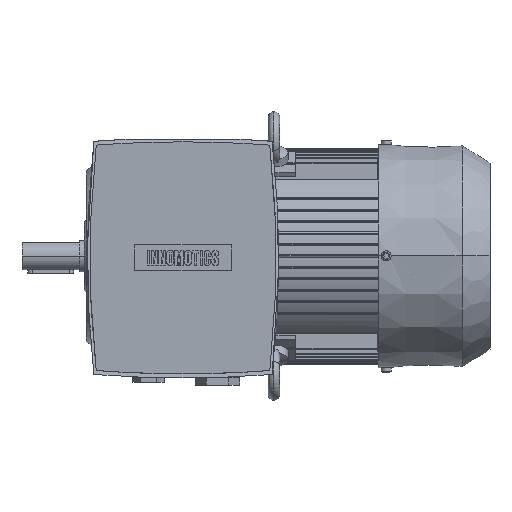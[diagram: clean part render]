
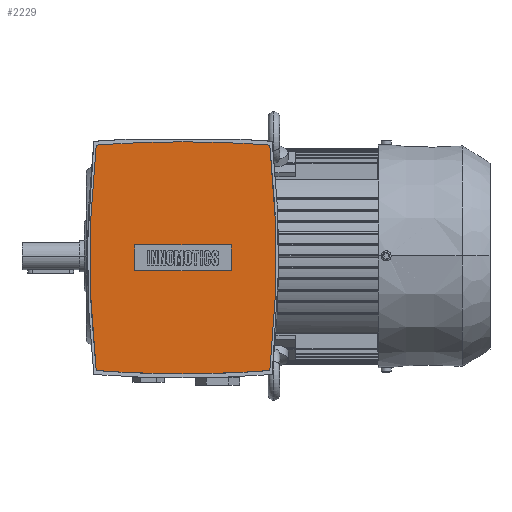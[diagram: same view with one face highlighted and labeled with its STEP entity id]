
A CAD part, top view. The second image highlights one B-rep face of the part: STEP entity #2229.
In plain terms, the highlighted planar face has unit normal (0, 0, 1).
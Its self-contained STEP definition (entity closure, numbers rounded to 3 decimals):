
#2229=ADVANCED_FACE('',(#4838,#4839),#4840,.T.);
#4838=FACE_BOUND('',#7832,.T.);
#4839=FACE_OUTER_BOUND('',#7833,.T.);
#4840=PLANE('',#7834);
#7832=EDGE_LOOP('',(#14825,#14826,#14827,#14828));
#7833=EDGE_LOOP('',(#14829,#14830,#14831,#14832,#14833,#14834));
#7834=AXIS2_PLACEMENT_3D('',#14835,#14836,#14837);
#14825=ORIENTED_EDGE('',*,*,#20895,.T.);
#14826=ORIENTED_EDGE('',*,*,#20899,.T.);
#14827=ORIENTED_EDGE('',*,*,#20902,.T.);
#14828=ORIENTED_EDGE('',*,*,#20904,.T.);
#14829=ORIENTED_EDGE('',*,*,#20972,.T.);
#14830=ORIENTED_EDGE('',*,*,#20963,.T.);
#14831=ORIENTED_EDGE('',*,*,#18706,.T.);
#14832=ORIENTED_EDGE('',*,*,#20959,.T.);
#14833=ORIENTED_EDGE('',*,*,#18691,.T.);
#14834=ORIENTED_EDGE('',*,*,#20970,.T.);
#14835=CARTESIAN_POINT('',(45.5,-1.5,183.0));
#14836=DIRECTION('',(0.0,0.0,1.0));
#14837=DIRECTION('',(0.0,-1.0,0.0));
#18691=EDGE_CURVE('',#22673,#22670,#22674,.T.);
#18706=EDGE_CURVE('',#22695,#22699,#22701,.T.);
#20895=EDGE_CURVE('',#25984,#25982,#25985,.T.);
#20899=EDGE_CURVE('',#25982,#25988,#25990,.T.);
#20902=EDGE_CURVE('',#25988,#25992,#25994,.T.);
#20904=EDGE_CURVE('',#25992,#25984,#25996,.T.);
#20959=EDGE_CURVE('',#22699,#22673,#26073,.T.);
#20963=EDGE_CURVE('',#26077,#22695,#26078,.T.);
#20970=EDGE_CURVE('',#22670,#26085,#26087,.T.);
#20972=EDGE_CURVE('',#26085,#26077,#26089,.T.);
#22670=VERTEX_POINT('',#29479);
#22673=VERTEX_POINT('',#29483);
#22674=CIRCLE('',#29484,828.12);
#22695=VERTEX_POINT('',#29531);
#22699=VERTEX_POINT('',#29536);
#22701=CIRCLE('',#29539,828.12);
#25982=VERTEX_POINT('',#35930);
#25984=VERTEX_POINT('',#35933);
#25985=LINE('',#35934,#35935);
#25988=VERTEX_POINT('',#35939);
#25990=LINE('',#35942,#35943);
#25992=VERTEX_POINT('',#35945);
#25994=LINE('',#35948,#35949);
#25996=LINE('',#35951,#35952);
#26073=CIRCLE('',#36067,717.2);
#26077=VERTEX_POINT('',#36071);
#26078=CIRCLE('',#36072,828.12);
#26085=VERTEX_POINT('',#36081);
#26087=CIRCLE('',#36084,828.12);
#26089=CIRCLE('',#36086,717.2);
#29479=CARTESIAN_POINT('',(45.5,79.5,183.0));
#29483=CARTESIAN_POINT('',(106.161,77.275,183.0));
#29484=AXIS2_PLACEMENT_3D('',#39389,#39390,#39391);
#29531=CARTESIAN_POINT('',(45.5,-82.5,183.0));
#29536=CARTESIAN_POINT('',(106.161,-80.275,183.0));
#29539=AXIS2_PLACEMENT_3D('',#39413,#39414,#39415);
#35930=CARTESIAN_POINT('',(11.75,-10.55,183.0));
#35933=CARTESIAN_POINT('',(79.25,-10.55,183.0));
#35934=CARTESIAN_POINT('',(45.5,-10.55,183.0));
#35935=VECTOR('',#41768,1.0);
#35939=CARTESIAN_POINT('',(11.75,7.55,183.0));
#35942=CARTESIAN_POINT('',(11.75,-1.5,183.0));
#35943=VECTOR('',#41771,1.0);
#35945=CARTESIAN_POINT('',(79.25,7.55,183.0));
#35948=CARTESIAN_POINT('',(45.5,7.55,183.0));
#35949=VECTOR('',#41773,1.0);
#35951=CARTESIAN_POINT('',(79.25,-1.5,183.0));
#35952=VECTOR('',#41774,1.0);
#36067=AXIS2_PLACEMENT_3D('',#41855,#41856,#41857);
#36071=CARTESIAN_POINT('',(-15.161,-80.275,183.0));
#36072=AXIS2_PLACEMENT_3D('',#41861,#41862,#41863);
#36081=CARTESIAN_POINT('',(-15.161,77.275,183.0));
#36084=AXIS2_PLACEMENT_3D('',#41870,#41871,#41872);
#36086=AXIS2_PLACEMENT_3D('',#41873,#41874,#41875);
#39389=CARTESIAN_POINT('',(45.5,-748.62,183.0));
#39390=DIRECTION('',(0.0,-0.0,1.0));
#39391=DIRECTION('',(0.0,1.0,0.0));
#39413=CARTESIAN_POINT('',(45.5,745.62,183.0));
#39414=DIRECTION('',(0.0,-0.0,1.0));
#39415=DIRECTION('',(0.0,1.0,0.0));
#41768=DIRECTION('',(-1.0,0.0,0.0));
#41771=DIRECTION('',(0.0,1.0,0.0));
#41773=DIRECTION('',(1.0,0.0,-0.0));
#41774=DIRECTION('',(0.0,-1.0,0.0));
#41855=CARTESIAN_POINT('',(-606.7,-1.5,183.0));
#41856=DIRECTION('',(0.0,-0.0,1.0));
#41857=DIRECTION('',(0.0,1.0,0.0));
#41861=CARTESIAN_POINT('',(45.5,745.62,183.0));
#41862=DIRECTION('',(0.0,-0.0,1.0));
#41863=DIRECTION('',(0.0,1.0,0.0));
#41870=CARTESIAN_POINT('',(45.5,-748.62,183.0));
#41871=DIRECTION('',(0.0,-0.0,1.0));
#41872=DIRECTION('',(0.0,1.0,0.0));
#41873=CARTESIAN_POINT('',(697.7,-1.5,183.0));
#41874=DIRECTION('',(0.0,-0.0,1.0));
#41875=DIRECTION('',(0.0,1.0,0.0));
